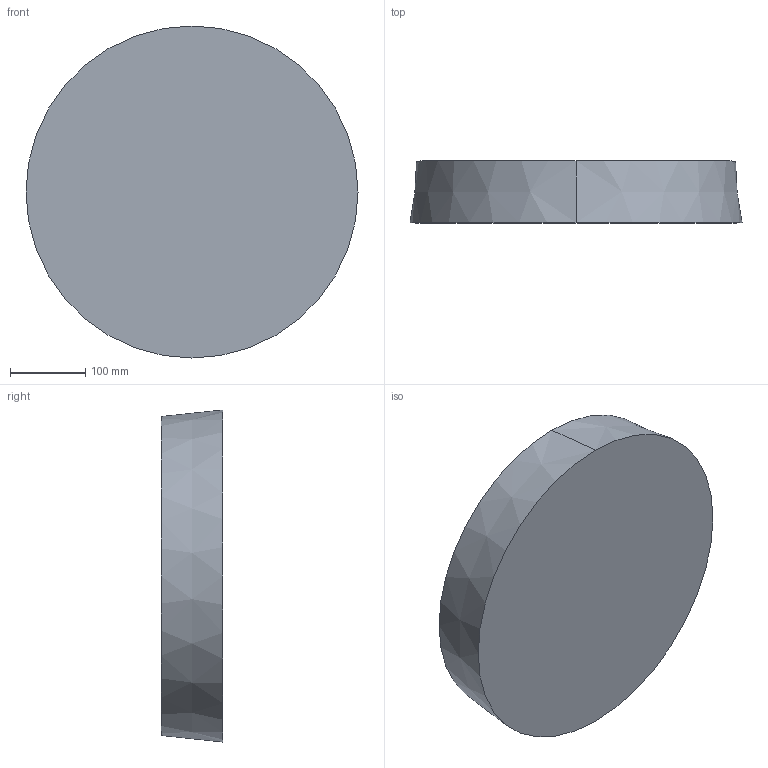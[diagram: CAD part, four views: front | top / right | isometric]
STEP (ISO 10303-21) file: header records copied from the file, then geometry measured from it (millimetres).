
FILE_DESCRIPTION (( 'STEP AP203' ), '1' );
FILE_NAME ('ORBIS44.STEP', '2025-06-20T06:48:01', ( '' ), ( '' ), 'SwSTEP 2.0', 'SolidWorks 2024', '' );
FILE_SCHEMA (( 'CONFIG_CONTROL_DESIGN' ));
Length unit declared in the file: millimetre
Products named in the file (1): ORBIS44
Bounding box: 440 x 82 x 440 mm (x, y, z)
Surface area: 428547.2 mm2 (no closed solid volume)
Topology: 0 solids, 2 shells, 48 faces, 135 edges, 90 vertices
Faces by surface type: cylinder 42, cone 4, plane 2
Entity records: 4459 total; most frequent: CARTESIAN_POINT 3376, ORIENTED_EDGE 186, DIRECTION 159, EDGE_CURVE 135, VERTEX_POINT 90, B_SPLINE_CURVE_WITH_KNOTS 82, AXIS2_PLACEMENT_3D 57, EDGE_LOOP 49
